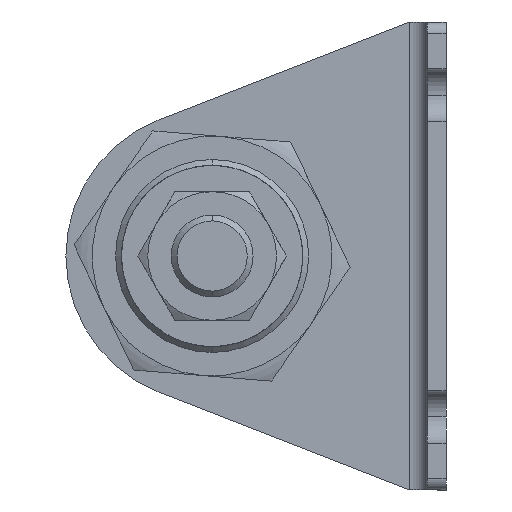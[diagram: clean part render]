
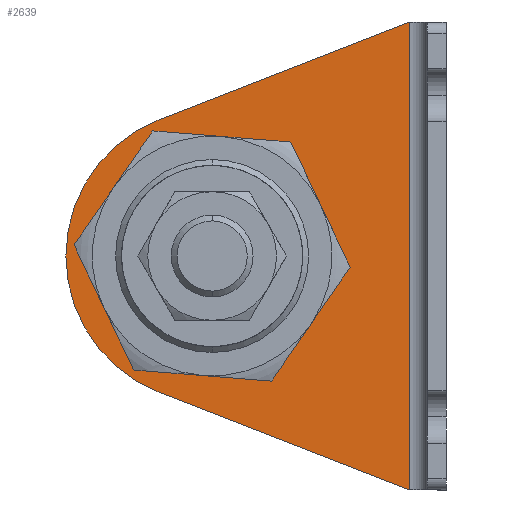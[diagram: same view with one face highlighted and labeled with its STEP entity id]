
A CAD part, left-side view. The second image highlights one B-rep face of the part: STEP entity #2639.
In plain terms, the highlighted planar face has unit normal (-1, 0, 0) as drawn and (1, 0, 0) by its records, which use the part's own axes.
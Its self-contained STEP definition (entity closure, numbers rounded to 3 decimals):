
#24 = CARTESIAN_POINT ( 'NONE',  ( 3.2, 40., -40. ) ) ;
#67 = CIRCLE ( 'NONE', #3638, 16.5 ) ;
#71 = LINE ( 'NONE', #3495, #3801 ) ;
#87 = VERTEX_POINT ( 'NONE', #1987 ) ;
#162 = DIRECTION ( 'NONE',  ( 0., 0., -1. ) ) ;
#319 = VECTOR ( 'NONE', #2068, 1000. ) ;
#356 = EDGE_LOOP ( 'NONE', ( #1028, #2118, #2285, #2782, #1294 ) ) ;
#467 = DIRECTION ( 'NONE',  ( 1., 0., 0. ) ) ;
#581 = CIRCLE ( 'NONE', #3860, 25. ) ;
#646 = DIRECTION ( 'NONE',  ( 0., 1., 0. ) ) ;
#708 = CARTESIAN_POINT ( 'NONE',  ( 3.2, 40., -40. ) ) ;
#975 = CARTESIAN_POINT ( 'NONE',  ( 3.2, 65., -40. ) ) ;
#1028 = ORIENTED_EDGE ( 'NONE', *, *, #1541, .T. ) ;
#1161 = CARTESIAN_POINT ( 'NONE',  ( 3.2, 40., -40. ) ) ;
#1249 = EDGE_CURVE ( 'NONE', #2233, #87, #3954, .T. ) ;
#1294 = ORIENTED_EDGE ( 'NONE', *, *, #3535, .T. ) ;
#1308 = DIRECTION ( 'NONE',  ( 1., 0., 0. ) ) ;
#1440 = DIRECTION ( 'NONE',  ( 1., 0., 0. ) ) ;
#1505 = CARTESIAN_POINT ( 'NONE',  ( 3.2, 3.2, -80. ) ) ;
#1541 = EDGE_CURVE ( 'NONE', #2910, #3562, #71, .T. ) ;
#1668 = ORIENTED_EDGE ( 'NONE', *, *, #1249, .F. ) ;
#1741 = CARTESIAN_POINT ( 'NONE',  ( 3.2, 30.657, -9.529 ) ) ;
#1769 = VERTEX_POINT ( 'NONE', #3806 ) ;
#1959 = CARTESIAN_POINT ( 'NONE',  ( 3.2, 6.2, -80. ) ) ;
#1987 = CARTESIAN_POINT ( 'NONE',  ( 3.2, 56.5, -40. ) ) ;
#2068 = DIRECTION ( 'NONE',  ( 0., 0.932, -0.363 ) ) ;
#2118 = ORIENTED_EDGE ( 'NONE', *, *, #2966, .T. ) ;
#2233 = VERTEX_POINT ( 'NONE', #3262 ) ;
#2285 = ORIENTED_EDGE ( 'NONE', *, *, #3952, .T. ) ;
#2321 = CARTESIAN_POINT ( 'NONE',  ( 3.2, 49.076, -16.706 ) ) ;
#2417 = CIRCLE ( 'NONE', #2947, 25. ) ;
#2462 = CARTESIAN_POINT ( 'NONE',  ( 3.2, 49.076, -63.294 ) ) ;
#2505 = EDGE_CURVE ( 'NONE', #1769, #3357, #3943, .T. ) ;
#2619 = AXIS2_PLACEMENT_3D ( 'NONE', #1505, #1440, #4075 ) ;
#2639 = ADVANCED_FACE ( 'NONE', ( #3434, #3845 ), #4135, .T. ) ;
#2681 = DIRECTION ( 'NONE',  ( 1., 0., 0. ) ) ;
#2704 = DIRECTION ( 'NONE',  ( 0., 1., 0. ) ) ;
#2711 = EDGE_CURVE ( 'NONE', #87, #2233, #67, .T. ) ;
#2782 = ORIENTED_EDGE ( 'NONE', *, *, #2505, .F. ) ;
#2910 = VERTEX_POINT ( 'NONE', #1959 ) ;
#2931 = CARTESIAN_POINT ( 'NONE',  ( 3.2, 40., -40. ) ) ;
#2936 = VERTEX_POINT ( 'NONE', #975 ) ;
#2947 = AXIS2_PLACEMENT_3D ( 'NONE', #708, #3693, #2704 ) ;
#2966 = EDGE_CURVE ( 'NONE', #3562, #2936, #581, .T. ) ;
#2979 = DIRECTION ( 'NONE',  ( 0., 1., 0. ) ) ;
#3006 = AXIS2_PLACEMENT_3D ( 'NONE', #2931, #1308, #646 ) ;
#3120 = DIRECTION ( 'NONE',  ( 0., 1., 0. ) ) ;
#3262 = CARTESIAN_POINT ( 'NONE',  ( 3.2, 23.5, -40. ) ) ;
#3357 = VERTEX_POINT ( 'NONE', #2321 ) ;
#3434 = FACE_BOUND ( 'NONE', #4074, .T. ) ;
#3495 = CARTESIAN_POINT ( 'NONE',  ( 3.2, 3.595, -81.015 ) ) ;
#3535 = EDGE_CURVE ( 'NONE', #1769, #2910, #3682, .T. ) ;
#3562 = VERTEX_POINT ( 'NONE', #2462 ) ;
#3638 = AXIS2_PLACEMENT_3D ( 'NONE', #24, #2681, #2979 ) ;
#3682 = LINE ( 'NONE', #4116, #4149 ) ;
#3693 = DIRECTION ( 'NONE',  ( 1., 0., 0. ) ) ;
#3801 = VECTOR ( 'NONE', #4243, 1000. ) ;
#3806 = CARTESIAN_POINT ( 'NONE',  ( 3.2, 6.2, 0. ) ) ;
#3845 = FACE_OUTER_BOUND ( 'NONE', #356, .T. ) ;
#3860 = AXIS2_PLACEMENT_3D ( 'NONE', #1161, #467, #3120 ) ;
#3943 = LINE ( 'NONE', #1741, #319 ) ;
#3952 = EDGE_CURVE ( 'NONE', #2936, #3357, #2417, .T. ) ;
#3954 = CIRCLE ( 'NONE', #3006, 16.5 ) ;
#4074 = EDGE_LOOP ( 'NONE', ( #4264, #1668 ) ) ;
#4075 = DIRECTION ( 'NONE',  ( 0., 1., 0. ) ) ;
#4116 = CARTESIAN_POINT ( 'NONE',  ( 3.2, 6.2, -80. ) ) ;
#4135 = PLANE ( 'NONE',  #2619 ) ;
#4149 = VECTOR ( 'NONE', #162, 1000. ) ;
#4243 = DIRECTION ( 'NONE',  ( 0., 0.932, 0.363 ) ) ;
#4264 = ORIENTED_EDGE ( 'NONE', *, *, #2711, .F. ) ;
